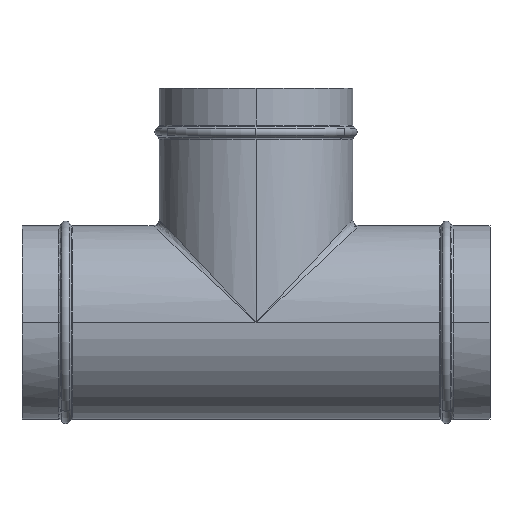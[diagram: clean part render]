
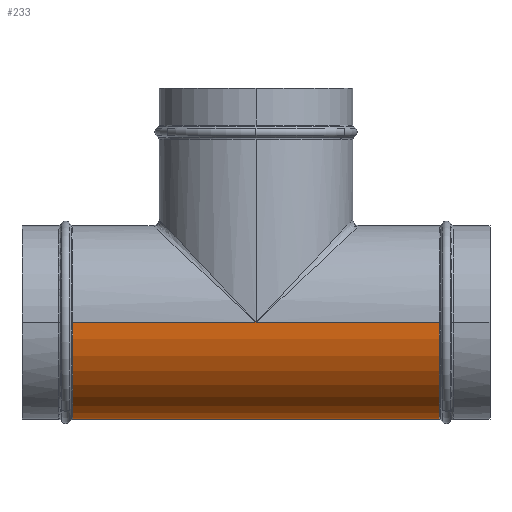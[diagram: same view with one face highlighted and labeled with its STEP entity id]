
A CAD part, left-side view. The second image highlights one B-rep face of the part: STEP entity #233.
In plain terms, the highlighted cylindrical face has radius 76.5 mm (diameter 153 mm), a partial arc.
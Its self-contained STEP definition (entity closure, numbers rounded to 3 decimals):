
#122=CYLINDRICAL_SURFACE('',#991,76.5);
#159=LINE('',#1480,#193);
#160=LINE('',#1482,#194);
#161=LINE('',#1484,#195);
#162=LINE('',#1488,#196);
#193=VECTOR('',#1177,1.);
#194=VECTOR('',#1178,1.);
#195=VECTOR('',#1179,1.);
#196=VECTOR('',#1182,1.);
#233=ADVANCED_FACE('',(#311),#122,.T.);
#311=FACE_OUTER_BOUND('',#366,.T.);
#366=EDGE_LOOP('',(#470,#471,#472,#473,#474,#475));
#470=ORIENTED_EDGE('',*,*,#769,.F.);
#471=ORIENTED_EDGE('',*,*,#762,.T.);
#472=ORIENTED_EDGE('',*,*,#770,.T.);
#473=ORIENTED_EDGE('',*,*,#771,.F.);
#474=ORIENTED_EDGE('',*,*,#772,.F.);
#475=ORIENTED_EDGE('',*,*,#773,.T.);
#683=VERTEX_POINT('',#1463);
#684=VERTEX_POINT('',#1467);
#687=VERTEX_POINT('',#1481);
#688=VERTEX_POINT('',#1483);
#689=VERTEX_POINT('',#1485);
#690=VERTEX_POINT('',#1487);
#762=EDGE_CURVE('GENERATED CIRCLE',#684,#683,#885,.T.);
#769=EDGE_CURVE('LINE',#684,#687,#159,.T.);
#770=EDGE_CURVE('LINE',#683,#688,#160,.T.);
#771=EDGE_CURVE('LINE',#689,#688,#161,.T.);
#772=EDGE_CURVE('GENERATED CIRCLE',#690,#689,#890,.T.);
#773=EDGE_CURVE('LINE',#690,#687,#162,.T.);
#885=CIRCLE('',#981,76.5);
#890=CIRCLE('',#990,76.5);
#981=AXIS2_PLACEMENT_3D('',#1466,#1157,#1158);
#990=AXIS2_PLACEMENT_3D('',#1486,#1180,#1181);
#991=AXIS2_PLACEMENT_3D('',#1489,#1183,#1184);
#1157=DIRECTION('',(0.,-1.,0.));
#1158=DIRECTION('',(1.,0.,0.));
#1177=DIRECTION('',(0.,-1.,0.));
#1178=DIRECTION('',(0.,-1.,0.));
#1179=DIRECTION('',(0.,1.,0.));
#1180=DIRECTION('',(0.,-1.,0.));
#1181=DIRECTION('',(1.,0.,0.));
#1182=DIRECTION('',(0.,1.,0.));
#1183=DIRECTION('',(0.,1.,0.));
#1184=DIRECTION('',(1.,0.,0.));
#1463=CARTESIAN_POINT('',(76.5,144.998,0.));
#1466=CARTESIAN_POINT('',(0.,144.998,0.));
#1467=CARTESIAN_POINT('',(-76.5,144.998,0.));
#1480=CARTESIAN_POINT('',(-76.5,92.5,0.));
#1481=CARTESIAN_POINT('',(-76.5,0.,0.));
#1482=CARTESIAN_POINT('',(76.5,92.5,0.));
#1483=CARTESIAN_POINT('',(76.5,0.,0.));
#1484=CARTESIAN_POINT('',(76.5,92.5,0.));
#1485=CARTESIAN_POINT('',(76.5,-144.998,0.));
#1486=CARTESIAN_POINT('',(0.,-144.998,0.));
#1487=CARTESIAN_POINT('',(-76.5,-144.998,0.));
#1488=CARTESIAN_POINT('',(-76.5,92.5,0.));
#1489=CARTESIAN_POINT('',(0.,92.5,0.));
